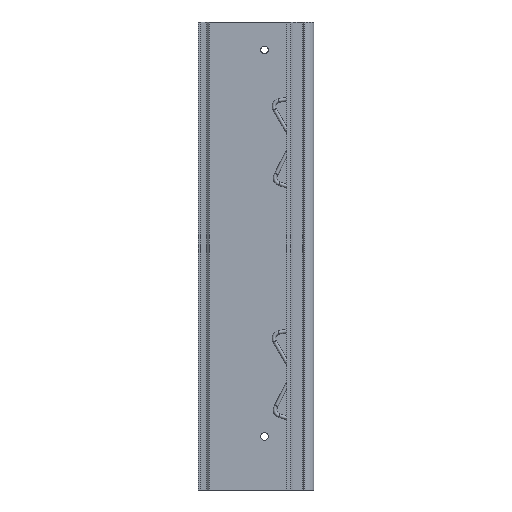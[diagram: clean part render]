
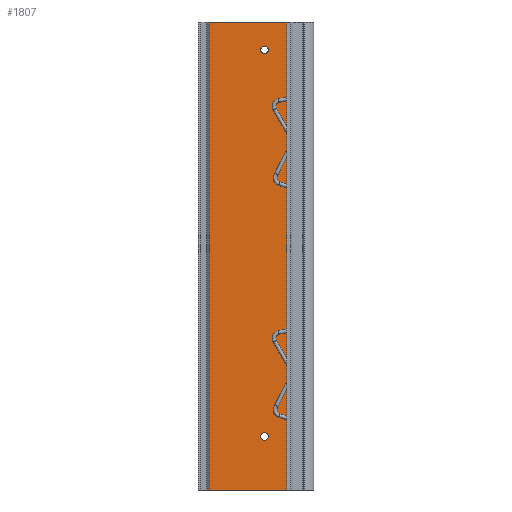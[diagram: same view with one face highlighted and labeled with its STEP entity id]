
A CAD part, left-side view. The second image highlights one B-rep face of the part: STEP entity #1807.
In plain terms, the highlighted planar face has unit normal (-1, 0, 0).
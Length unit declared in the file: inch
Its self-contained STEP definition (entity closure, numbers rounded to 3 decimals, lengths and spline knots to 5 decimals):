
#72=DIRECTION('',(0.,1.,0.));
#73=VECTOR('',#72,1.3025);
#74=CARTESIAN_POINT('',(-0.08,0.455,0.));
#75=LINE('',#74,#73);
#300=DIRECTION('',(0.,0.,1.));
#301=VECTOR('',#300,7.87);
#302=CARTESIAN_POINT('',(-0.08,1.7575,0.));
#303=LINE('',#302,#301);
#304=DIRECTION('',(0.,0.,1.));
#305=VECTOR('',#304,7.87);
#306=CARTESIAN_POINT('',(-0.08,0.455,0.));
#307=LINE('',#306,#305);
#308=CARTESIAN_POINT('',(-0.08,0.828,0.9));
#309=DIRECTION('',(-1.,0.,0.));
#310=DIRECTION('',(0.,1.,0.));
#311=AXIS2_PLACEMENT_3D('',#308,#309,#310);
#313=CARTESIAN_POINT('',(-0.08,0.828,0.9));
#314=DIRECTION('',(-1.,0.,0.));
#315=DIRECTION('',(0.,-1.,0.));
#316=AXIS2_PLACEMENT_3D('',#313,#314,#315);
#318=CARTESIAN_POINT('',(-0.08,0.828,7.4));
#319=DIRECTION('',(-1.,0.,0.));
#320=DIRECTION('',(0.,1.,0.));
#321=AXIS2_PLACEMENT_3D('',#318,#319,#320);
#323=CARTESIAN_POINT('',(-0.08,0.828,7.4));
#324=DIRECTION('',(-1.,0.,0.));
#325=DIRECTION('',(0.,-1.,0.));
#326=AXIS2_PLACEMENT_3D('',#323,#324,#325);
#430=DIRECTION('',(0.,1.,0.));
#431=VECTOR('',#430,1.3025);
#432=CARTESIAN_POINT('',(-0.08,0.455,7.87));
#433=LINE('',#432,#431);
#1331=CARTESIAN_POINT('',(-0.08,0.455,0.));
#1332=VERTEX_POINT('',#1331);
#1343=CARTESIAN_POINT('',(-0.08,0.455,7.87));
#1344=VERTEX_POINT('',#1343);
#1349=CARTESIAN_POINT('',(-0.08,1.7575,0.));
#1351=VERTEX_POINT('',#1349);
#1357=CARTESIAN_POINT('',(-0.08,1.7575,7.87));
#1359=VERTEX_POINT('',#1357);
#1413=CARTESIAN_POINT('',(-0.08,0.89296,7.4));
#1414=CARTESIAN_POINT('',(-0.08,0.76304,7.4));
#1415=VERTEX_POINT('',#1413);
#1416=VERTEX_POINT('',#1414);
#1433=CARTESIAN_POINT('',(-0.08,0.89296,0.9));
#1434=CARTESIAN_POINT('',(-0.08,0.76304,0.9));
#1435=VERTEX_POINT('',#1433);
#1436=VERTEX_POINT('',#1434);
#1782=CARTESIAN_POINT('',(-0.08,0.455,7.87));
#1783=DIRECTION('',(1.,0.,0.));
#1784=DIRECTION('',(0.,1.,0.));
#1785=AXIS2_PLACEMENT_3D('',#1782,#1783,#1784);
#1786=PLANE('',#1785);
#1788=ORIENTED_EDGE('',*,*,#1787,.T.);
#1790=ORIENTED_EDGE('',*,*,#1789,.F.);
#1791=ORIENTED_EDGE('',*,*,#1774,.F.);
#1792=ORIENTED_EDGE('',*,*,#1574,.T.);
#1793=EDGE_LOOP('',(#1788,#1790,#1791,#1792));
#1794=FACE_OUTER_BOUND('',#1793,.F.);
#1796=ORIENTED_EDGE('',*,*,#1795,.T.);
#1798=ORIENTED_EDGE('',*,*,#1797,.T.);
#1799=EDGE_LOOP('',(#1796,#1798));
#1800=FACE_BOUND('',#1799,.F.);
#1802=ORIENTED_EDGE('',*,*,#1801,.T.);
#1804=ORIENTED_EDGE('',*,*,#1803,.T.);
#1805=EDGE_LOOP('',(#1802,#1804));
#1806=FACE_BOUND('',#1805,.F.);
#1807=ADVANCED_FACE('',(#1794,#1800,#1806),#1786,.F.);
#312=CIRCLE('',#311,0.06496);
#317=CIRCLE('',#316,0.06496);
#322=CIRCLE('',#321,0.06496);
#327=CIRCLE('',#326,0.06496);
#1574=EDGE_CURVE('',#1332,#1351,#75,.T.);
#1774=EDGE_CURVE('',#1332,#1344,#307,.T.);
#1787=EDGE_CURVE('',#1351,#1359,#303,.T.);
#1789=EDGE_CURVE('',#1344,#1359,#433,.T.);
#1795=EDGE_CURVE('',#1435,#1436,#312,.T.);
#1797=EDGE_CURVE('',#1436,#1435,#317,.T.);
#1801=EDGE_CURVE('',#1415,#1416,#322,.T.);
#1803=EDGE_CURVE('',#1416,#1415,#327,.T.);
